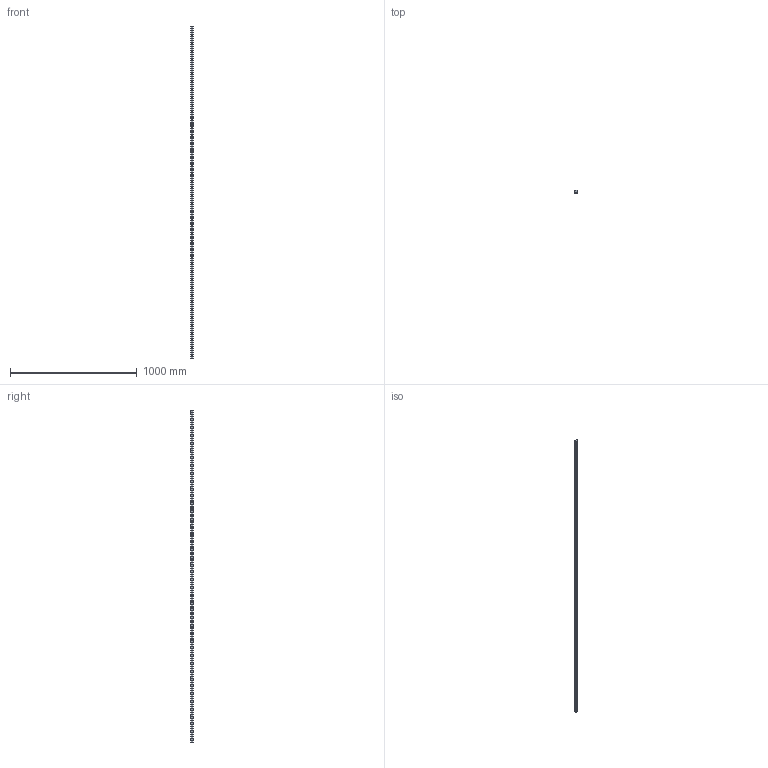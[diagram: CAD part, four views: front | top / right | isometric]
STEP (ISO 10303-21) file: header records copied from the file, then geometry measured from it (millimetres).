
FILE_DESCRIPTION (( 'STEP AP203' ), '1' );
FILE_NAME ('L1016.BL25-2620.step', '2019-06-12T12:11:56', ( '' ), ( '' ), 'SwSTEP 2.0', 'SolidWorks 2017', '' );
FILE_SCHEMA (( 'CONFIG_CONTROL_DESIGN' ));
Length unit declared in the file: millimetre
Products named in the file (1): L1016.BL25-2620
Bounding box: 23 x 19.2 x 2620 mm (x, y, z)
Volume: 965459.4 mm3; surface area: 248000.3 mm2
Topology: 1 solids, 1 shells, 246 faces, 600 edges, 400 vertices
Faces by surface type: cylinder 180, plane 66
Entity records: 7677 total; most frequent: DIRECTION 1454, CARTESIAN_POINT 1247, ORIENTED_EDGE 1200, AXIS2_PLACEMENT_3D 607, EDGE_CURVE 600, VERTEX_POINT 400, EDGE_LOOP 378, CIRCLE 360
